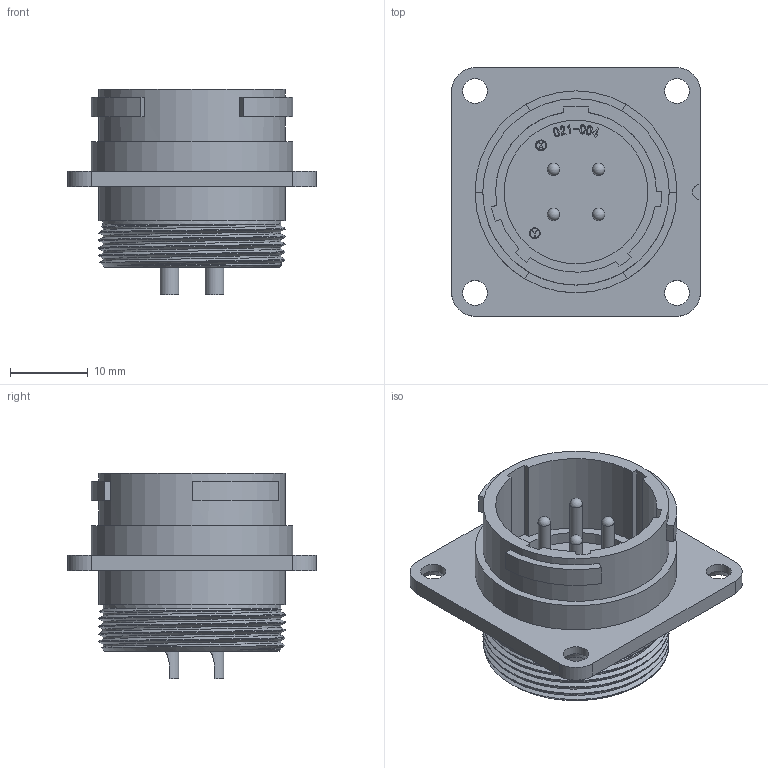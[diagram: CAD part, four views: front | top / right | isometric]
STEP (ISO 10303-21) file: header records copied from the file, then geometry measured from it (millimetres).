
FILE_DESCRIPTION (( 'STEP AP203' ), '1' );
FILE_NAME ('WEBR2104M-D.STEP', '2021-07-26T08:48:09', ( '' ), ( '' ), 'SwSTEP 2.0', 'SolidWorks 2018', '' );
FILE_SCHEMA (( 'CONFIG_CONTROL_DESIGN' ));
Length unit declared in the file: millimetre
Products named in the file (1): WEBR2104M-D
Bounding box: 32 x 32 x 26.4 mm (x, y, z)
Volume: 6429.9 mm3; surface area: 5997.7 mm2
Topology: 1 solids, 1 shells, 368 faces, 981 edges, 647 vertices
Faces by surface type: plane 190, bspline 108, cylinder 56, cone 10, sphere 4
Full cylindrical faces by diameter (mm): 1.2 x3, 1.4 x3, 1.6 x4, 1.7 x4, 2.4 x4, 3.2 x4, 17 x1, 18.5 x1, 22.92 x1, 23.96 x1, 24 x1, 26 x1
Entity records: 15184 total; most frequent: CARTESIAN_POINT 6908, ORIENTED_EDGE 1832, DIRECTION 1325, EDGE_CURVE 916, VERTEX_POINT 627, VECTOR 565, LINE 565, EDGE_LOOP 453
